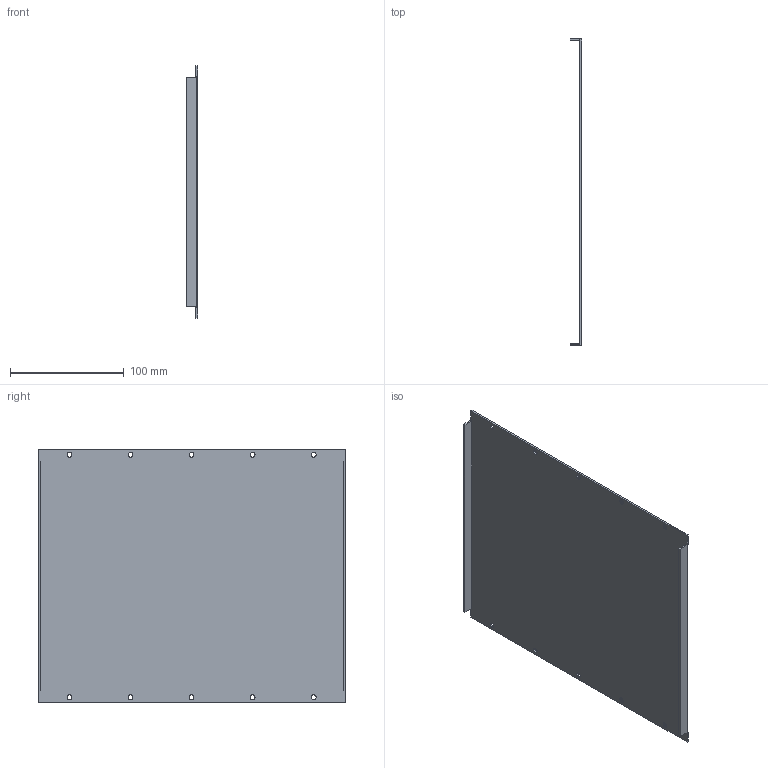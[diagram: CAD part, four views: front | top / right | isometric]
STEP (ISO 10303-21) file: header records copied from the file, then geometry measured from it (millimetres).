
FILE_DESCRIPTION(('CATIA V5 STEP Exchange'),'2;1');
FILE_NAME('C:\Users\Mike\Desktop\blank panels\5MU BLANK PANEL.stp','2018-03-03T21:32:52+00:00',('none'),('none'),'CATIA Version 5 Release 20 GA (IN-10)','CATIA V5 STEP AP214','none');
FILE_SCHEMA(('AUTOMOTIVE_DESIGN { 1 0 10303 214 1 1 1 1 }'));
Length unit declared in the file: millimetre
Products named in the file (1): 5MU BLANK PANEL
Bounding box: 10.16 x 269.24 x 222.25 mm (x, y, z)
Volume: 99267.6 mm3; surface area: 127874.1 mm2
Topology: 1 solids, 1 shells, 46 faces, 132 edges, 88 vertices
Faces by surface type: cylinder 22, plane 20, torus 4
Entity records: 1588 total; most frequent: CARTESIAN_POINT 405, ORIENTED_EDGE 264, DIRECTION 176, EDGE_CURVE 132, VERTEX_POINT 88, VECTOR 76, LINE 76, AXIS2_PLACEMENT_3D 68
